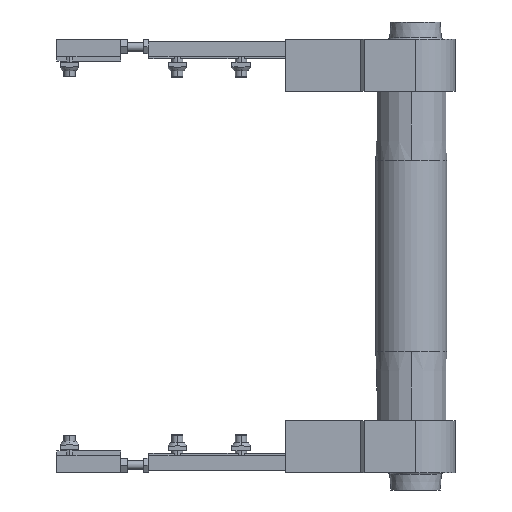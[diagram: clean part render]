
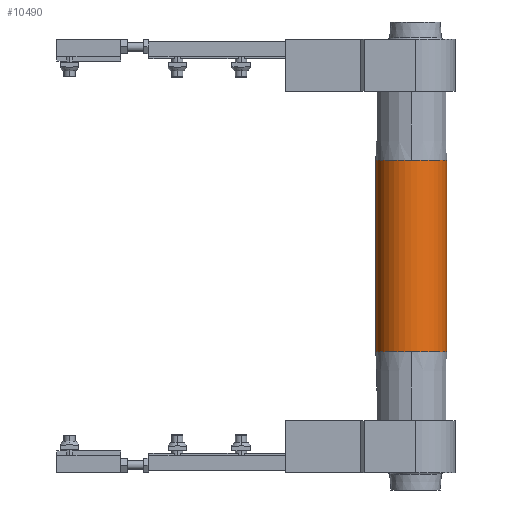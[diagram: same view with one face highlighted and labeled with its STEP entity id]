
A CAD part, front view. The second image highlights one B-rep face of the part: STEP entity #10490.
In plain terms, the highlighted cylindrical face has radius 25 mm (diameter 50 mm), a partial arc.
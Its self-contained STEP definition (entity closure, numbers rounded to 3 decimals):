
#362 = ORIENTED_EDGE ( 'NONE', *, *, #8766, .F. ) ;
#666 = AXIS2_PLACEMENT_3D ( 'NONE', #10841, #3091, #9409 ) ;
#725 = DIRECTION ( 'NONE',  ( 0., -1., 0. ) ) ;
#1045 = DIRECTION ( 'NONE',  ( -1., 0., 0. ) ) ;
#1286 = VERTEX_POINT ( 'NONE', #14098 ) ;
#1313 = AXIS2_PLACEMENT_3D ( 'NONE', #12117, #1045, #3398 ) ;
#1842 = CARTESIAN_POINT ( 'NONE',  ( 67.5, 0., 0. ) ) ;
#2416 = EDGE_CURVE ( 'NONE', #6312, #7998, #7330, .T. ) ;
#3017 = DIRECTION ( 'NONE',  ( -1., 0., 0. ) ) ;
#3046 = DIRECTION ( 'NONE',  ( -1., 0., 0. ) ) ;
#3091 = DIRECTION ( 'NONE',  ( -1., 0., 0. ) ) ;
#3117 = EDGE_CURVE ( 'NONE', #1286, #5606, #10048, .T. ) ;
#3186 = ORIENTED_EDGE ( 'NONE', *, *, #2416, .T. ) ;
#3365 = DIRECTION ( 'NONE',  ( -1., 0., 0. ) ) ;
#3398 = DIRECTION ( 'NONE',  ( 0., -1., 0. ) ) ;
#4050 = CYLINDRICAL_SURFACE ( 'NONE', #11996, 25. ) ;
#4087 = VECTOR ( 'NONE', #13942, 1000. ) ;
#4246 = DIRECTION ( 'NONE',  ( 0., 0., 1. ) ) ;
#4512 = CARTESIAN_POINT ( 'NONE',  ( 135., 0., -25. ) ) ;
#4807 = VECTOR ( 'NONE', #3365, 1000. ) ;
#4998 = CARTESIAN_POINT ( 'NONE',  ( 67.5, 0., -25. ) ) ;
#5200 = ORIENTED_EDGE ( 'NONE', *, *, #8101, .T. ) ;
#5606 = VERTEX_POINT ( 'NONE', #10094 ) ;
#6066 = CARTESIAN_POINT ( 'NONE',  ( 67.5, 25., 0. ) ) ;
#6312 = VERTEX_POINT ( 'NONE', #6066 ) ;
#6461 = AXIS2_PLACEMENT_3D ( 'NONE', #10542, #9575, #725 ) ;
#6684 = ORIENTED_EDGE ( 'NONE', *, *, #3117, .F. ) ;
#7221 = EDGE_CURVE ( 'NONE', #7998, #10013, #13079, .T. ) ;
#7330 = CIRCLE ( 'NONE', #1313, 25. ) ;
#7388 = CIRCLE ( 'NONE', #6461, 25. ) ;
#7998 = VERTEX_POINT ( 'NONE', #4998 ) ;
#8004 = EDGE_CURVE ( 'NONE', #5606, #10013, #7388, .T. ) ;
#8010 = CARTESIAN_POINT ( 'NONE',  ( -67.5, 0., -25. ) ) ;
#8101 = EDGE_CURVE ( 'NONE', #9124, #6312, #14106, .T. ) ;
#8544 = CARTESIAN_POINT ( 'NONE',  ( 135., 0., 25. ) ) ;
#8766 = EDGE_CURVE ( 'NONE', #9124, #1286, #12704, .T. ) ;
#9124 = VERTEX_POINT ( 'NONE', #11523 ) ;
#9409 = DIRECTION ( 'NONE',  ( 0., -1., 0. ) ) ;
#9575 = DIRECTION ( 'NONE',  ( -1., 0., 0. ) ) ;
#9675 = CARTESIAN_POINT ( 'NONE',  ( 135., 0., 0. ) ) ;
#10013 = VERTEX_POINT ( 'NONE', #8010 ) ;
#10048 = CIRCLE ( 'NONE', #666, 25. ) ;
#10094 = CARTESIAN_POINT ( 'NONE',  ( -67.5, 25., 0. ) ) ;
#10356 = ORIENTED_EDGE ( 'NONE', *, *, #8004, .F. ) ;
#10490 = ADVANCED_FACE ( 'NONE', ( #12836 ), #4050, .T. ) ;
#10542 = CARTESIAN_POINT ( 'NONE',  ( -67.5, 0., 0. ) ) ;
#10592 = DIRECTION ( 'NONE',  ( 0., -1., 0. ) ) ;
#10709 = ORIENTED_EDGE ( 'NONE', *, *, #7221, .T. ) ;
#10841 = CARTESIAN_POINT ( 'NONE',  ( -67.5, 0., 0. ) ) ;
#11523 = CARTESIAN_POINT ( 'NONE',  ( 67.5, 0., 25. ) ) ;
#11693 = AXIS2_PLACEMENT_3D ( 'NONE', #1842, #3046, #10592 ) ;
#11996 = AXIS2_PLACEMENT_3D ( 'NONE', #9675, #3017, #4246 ) ;
#12117 = CARTESIAN_POINT ( 'NONE',  ( 67.5, 0., 0. ) ) ;
#12704 = LINE ( 'NONE', #8544, #4087 ) ;
#12836 = FACE_OUTER_BOUND ( 'NONE', #12877, .T. ) ;
#12877 = EDGE_LOOP ( 'NONE', ( #5200, #3186, #10709, #10356, #6684, #362 ) ) ;
#13079 = LINE ( 'NONE', #4512, #4807 ) ;
#13942 = DIRECTION ( 'NONE',  ( -1., 0., 0. ) ) ;
#14098 = CARTESIAN_POINT ( 'NONE',  ( -67.5, 0., 25. ) ) ;
#14106 = CIRCLE ( 'NONE', #11693, 25. ) ;
